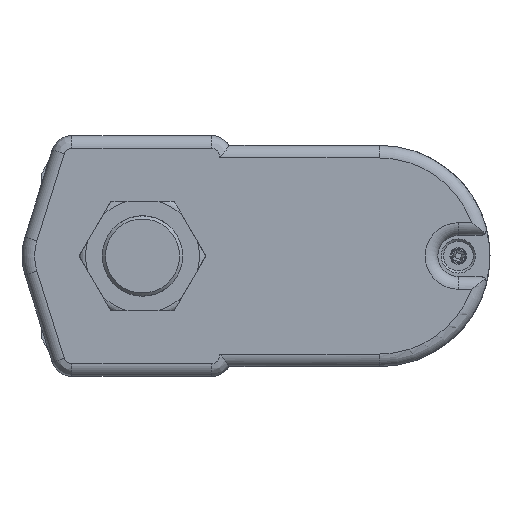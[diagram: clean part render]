
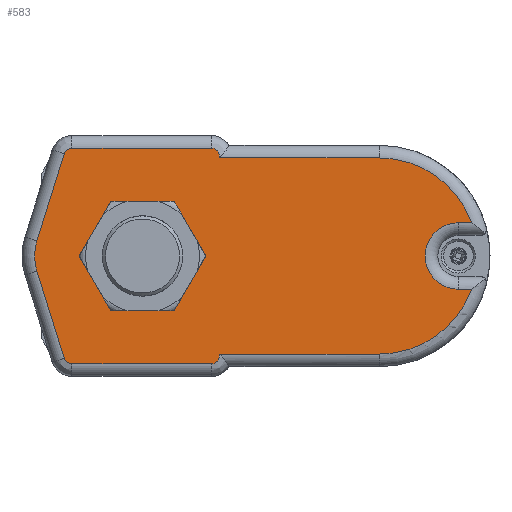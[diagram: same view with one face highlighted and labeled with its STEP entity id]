
A CAD part, left-side view. The second image highlights one B-rep face of the part: STEP entity #583.
In plain terms, the highlighted planar face has unit normal (-1, 0, 0).
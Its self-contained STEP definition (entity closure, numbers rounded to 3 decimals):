
#583 = ADVANCED_FACE( '', ( #1431 ), #1432, .F. );
#1431 = FACE_OUTER_BOUND( '', #2710, .T. );
#1432 = PLANE( '', #2711 );
#2710 = EDGE_LOOP( '', ( #4114, #4115, #4116, #4117, #4118, #4119, #4120, #4121, #4122, #4123, #4124, #4125, #4126, #4127, #4128, #4129, #4130, #4131 ) );
#2711 = AXIS2_PLACEMENT_3D( '', #4132, #4133, #4134 );
#4114 = ORIENTED_EDGE( '', *, *, #7296, .T. );
#4115 = ORIENTED_EDGE( '', *, *, #7297, .F. );
#4116 = ORIENTED_EDGE( '', *, *, #7298, .F. );
#4117 = ORIENTED_EDGE( '', *, *, #7299, .F. );
#4118 = ORIENTED_EDGE( '', *, *, #7300, .F. );
#4119 = ORIENTED_EDGE( '', *, *, #7301, .F. );
#4120 = ORIENTED_EDGE( '', *, *, #7302, .T. );
#4121 = ORIENTED_EDGE( '', *, *, #7303, .T. );
#4122 = ORIENTED_EDGE( '', *, *, #7304, .F. );
#4123 = ORIENTED_EDGE( '', *, *, #7305, .T. );
#4124 = ORIENTED_EDGE( '', *, *, #7306, .T. );
#4125 = ORIENTED_EDGE( '', *, *, #7252, .F. );
#4126 = ORIENTED_EDGE( '', *, *, #7307, .F. );
#4127 = ORIENTED_EDGE( '', *, *, #7308, .T. );
#4128 = ORIENTED_EDGE( '', *, *, #7309, .F. );
#4129 = ORIENTED_EDGE( '', *, *, #7310, .T. );
#4130 = ORIENTED_EDGE( '', *, *, #7311, .F. );
#4131 = ORIENTED_EDGE( '', *, *, #7312, .T. );
#4132 = CARTESIAN_POINT( '', ( 0., 74.9, 0. ) );
#4133 = DIRECTION( '', ( 1., 0., 0. ) );
#4134 = DIRECTION( '', ( 0., 0., -1. ) );
#7252 = EDGE_CURVE( '', #8546, #8547, #8548, .T. );
#7296 = EDGE_CURVE( '', #8626, #8627, #8628, .T. );
#7297 = EDGE_CURVE( '', #8629, #8627, #8630, .T. );
#7298 = EDGE_CURVE( '', #8631, #8629, #8632, .T. );
#7299 = EDGE_CURVE( '', #8633, #8631, #8634, .T. );
#7300 = EDGE_CURVE( '', #8635, #8633, #8636, .T. );
#7301 = EDGE_CURVE( '', #8637, #8635, #8638, .T. );
#7302 = EDGE_CURVE( '', #8637, #8639, #8640, .T. );
#7303 = EDGE_CURVE( '', #8639, #8641, #8642, .T. );
#7304 = EDGE_CURVE( '', #8643, #8641, #8644, .T. );
#7305 = EDGE_CURVE( '', #8643, #8645, #8646, .T. );
#7306 = EDGE_CURVE( '', #8645, #8547, #8647, .T. );
#7307 = EDGE_CURVE( '', #8648, #8546, #8649, .T. );
#7308 = EDGE_CURVE( '', #8648, #8650, #8651, .T. );
#7309 = EDGE_CURVE( '', #8652, #8650, #8653, .T. );
#7310 = EDGE_CURVE( '', #8652, #8654, #8655, .T. );
#7311 = EDGE_CURVE( '', #8656, #8654, #8657, .T. );
#7312 = EDGE_CURVE( '', #8656, #8626, #8658, .T. );
#8546 = VERTEX_POINT( '', #10515 );
#8547 = VERTEX_POINT( '', #10516 );
#8548 = CIRCLE( '', #10517, 2.5 );
#8626 = VERTEX_POINT( '', #10623 );
#8627 = VERTEX_POINT( '', #10624 );
#8628 = CIRCLE( '', #10625, 10.5 );
#8629 = VERTEX_POINT( '', #10626 );
#8630 = LINE( '', #10627, #10628 );
#8631 = VERTEX_POINT( '', #10629 );
#8632 = CIRCLE( '', #10630, 31. );
#8633 = VERTEX_POINT( '', #10631 );
#8634 = LINE( '', #10632, #10633 );
#8635 = VERTEX_POINT( '', #10634 );
#8636 = LINE( '', #10635, #10636 );
#8637 = VERTEX_POINT( '', #10637 );
#8638 = CIRCLE( '', #10638, 2.5 );
#8639 = VERTEX_POINT( '', #10639 );
#8640 = LINE( '', #10640, #10641 );
#8641 = VERTEX_POINT( '', #10642 );
#8642 = CIRCLE( '', #10643, 2.5 );
#8643 = VERTEX_POINT( '', #10644 );
#8644 = LINE( '', #10645, #10646 );
#8645 = VERTEX_POINT( '', #10647 );
#8646 = CIRCLE( '', #10648, 16. );
#8647 = LINE( '', #10649, #10650 );
#8648 = VERTEX_POINT( '', #10651 );
#8649 = LINE( '', #10652, #10653 );
#8650 = VERTEX_POINT( '', #10654 );
#8651 = CIRCLE( '', #10655, 2.5 );
#8652 = VERTEX_POINT( '', #10656 );
#8653 = LINE( '', #10657, #10658 );
#8654 = VERTEX_POINT( '', #10659 );
#8655 = LINE( '', #10660, #10661 );
#8656 = VERTEX_POINT( '', #10662 );
#8657 = CIRCLE( '', #10663, 31. );
#8658 = LINE( '', #10664, #10665 );
#10515 = CARTESIAN_POINT( '', ( 0., -22.328, 34.1 ) );
#10516 = CARTESIAN_POINT( '', ( 0., -24.713, 32.349 ) );
#10517 = AXIS2_PLACEMENT_3D( '', #13492, #13493, #13494 );
#10623 = CARTESIAN_POINT( '', ( 0., 99.9, 10.5 ) );
#10624 = CARTESIAN_POINT( '', ( 0., 99.9, -10.5 ) );
#10625 = AXIS2_PLACEMENT_3D( '', #13556, #13557, #13558 );
#10626 = CARTESIAN_POINT( '', ( 0., 104.068, -10.5 ) );
#10627 = CARTESIAN_POINT( '', ( 0., 125.3, -10.5 ) );
#10628 = VECTOR( '', #13559, 1000. );
#10629 = CARTESIAN_POINT( '', ( 0., 74.9, -31. ) );
#10630 = AXIS2_PLACEMENT_3D( '', #13560, #13561, #13562 );
#10631 = CARTESIAN_POINT( '', ( 0., 24.31, -31. ) );
#10632 = CARTESIAN_POINT( '', ( 0., 16.48, -31. ) );
#10633 = VECTOR( '', #13563, 1000. );
#10634 = CARTESIAN_POINT( '', ( 0., 24.31, -31.6 ) );
#10635 = CARTESIAN_POINT( '', ( 0., 24.31, -31.6 ) );
#10636 = VECTOR( '', #13564, 1000. );
#10637 = CARTESIAN_POINT( '', ( 0., 21.81, -34.1 ) );
#10638 = AXIS2_PLACEMENT_3D( '', #13565, #13566, #13567 );
#10639 = CARTESIAN_POINT( '', ( 0., -22.328, -34.1 ) );
#10640 = CARTESIAN_POINT( '', ( 0., 21.81, -34.1 ) );
#10641 = VECTOR( '', #13568, 1000. );
#10642 = CARTESIAN_POINT( '', ( 0., -24.713, -32.349 ) );
#10643 = AXIS2_PLACEMENT_3D( '', #13569, #13570, #13571 );
#10644 = CARTESIAN_POINT( '', ( 0., -33.365, -4.793 ) );
#10645 = CARTESIAN_POINT( '', ( 0., -33.365, -4.793 ) );
#10646 = VECTOR( '', #13572, 1000. );
#10647 = CARTESIAN_POINT( '', ( 0., -33.365, 4.793 ) );
#10648 = AXIS2_PLACEMENT_3D( '', #13573, #13574, #13575 );
#10649 = CARTESIAN_POINT( '', ( 0., -33.365, 4.793 ) );
#10650 = VECTOR( '', #13576, 1000. );
#10651 = CARTESIAN_POINT( '', ( 0., 21.81, 34.1 ) );
#10652 = CARTESIAN_POINT( '', ( 0., 21.81, 34.1 ) );
#10653 = VECTOR( '', #13577, 1000. );
#10654 = CARTESIAN_POINT( '', ( 0., 24.31, 31.6 ) );
#10655 = AXIS2_PLACEMENT_3D( '', #13578, #13579, #13580 );
#10656 = CARTESIAN_POINT( '', ( 0., 24.31, 31. ) );
#10657 = CARTESIAN_POINT( '', ( 0., 24.31, -31.6 ) );
#10658 = VECTOR( '', #13581, 1000. );
#10659 = CARTESIAN_POINT( '', ( 0., 74.9, 31. ) );
#10660 = CARTESIAN_POINT( '', ( 0., 16.48, 31. ) );
#10661 = VECTOR( '', #13582, 1000. );
#10662 = CARTESIAN_POINT( '', ( 0., 104.068, 10.5 ) );
#10663 = AXIS2_PLACEMENT_3D( '', #13583, #13584, #13585 );
#10664 = CARTESIAN_POINT( '', ( 0., 125.3, 10.5 ) );
#10665 = VECTOR( '', #13586, 1000. );
#13492 = CARTESIAN_POINT( '', ( 0., -22.328, 31.6 ) );
#13493 = DIRECTION( '', ( 1., 0., 0. ) );
#13494 = DIRECTION( '', ( 0., 0., -1. ) );
#13556 = CARTESIAN_POINT( '', ( 0., 99.9, 0. ) );
#13557 = DIRECTION( '', ( 1., 0., 0. ) );
#13558 = DIRECTION( '', ( 0., 0., -1. ) );
#13559 = DIRECTION( '', ( 0., -1., 0. ) );
#13560 = CARTESIAN_POINT( '', ( 0., 74.9, 0. ) );
#13561 = DIRECTION( '', ( 1., 0., 0. ) );
#13562 = DIRECTION( '', ( 0., 0., -1. ) );
#13563 = DIRECTION( '', ( 0., 1., 0. ) );
#13564 = DIRECTION( '', ( 0., 0., 1. ) );
#13565 = CARTESIAN_POINT( '', ( 0., 21.81, -31.6 ) );
#13566 = DIRECTION( '', ( 1., 0., 0. ) );
#13567 = DIRECTION( '', ( 0., 0., -1. ) );
#13568 = DIRECTION( '', ( 0., -1., 0. ) );
#13569 = CARTESIAN_POINT( '', ( 0., -22.328, -31.6 ) );
#13570 = DIRECTION( '', ( -1., 0., 0. ) );
#13571 = DIRECTION( '', ( 0., 0., 1. ) );
#13572 = DIRECTION( '', ( 0., 0.3, -0.954 ) );
#13573 = CARTESIAN_POINT( '', ( 0., -18.1, 0. ) );
#13574 = DIRECTION( '', ( -1., 0., 0. ) );
#13575 = DIRECTION( '', ( 0., 0., 1. ) );
#13576 = DIRECTION( '', ( 0., 0.3, 0.954 ) );
#13577 = DIRECTION( '', ( 0., -1., 0. ) );
#13578 = CARTESIAN_POINT( '', ( 0., 21.81, 31.6 ) );
#13579 = DIRECTION( '', ( -1., 0., 0. ) );
#13580 = DIRECTION( '', ( 0., 0., 1. ) );
#13581 = DIRECTION( '', ( 0., 0., 1. ) );
#13582 = DIRECTION( '', ( 0., 1., 0. ) );
#13583 = CARTESIAN_POINT( '', ( 0., 74.9, 0. ) );
#13584 = DIRECTION( '', ( 1., 0., 0. ) );
#13585 = DIRECTION( '', ( 0., 0., -1. ) );
#13586 = DIRECTION( '', ( 0., -1., 0. ) );
